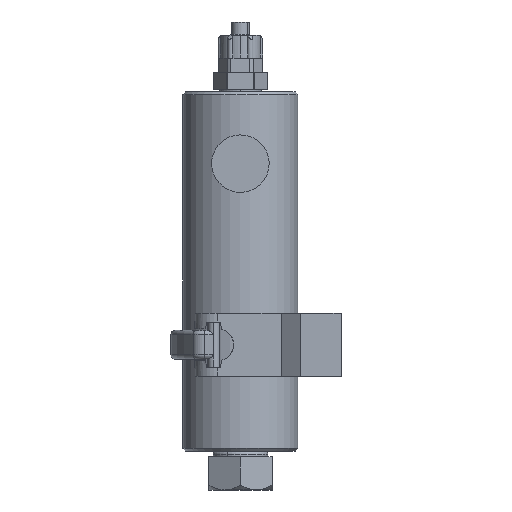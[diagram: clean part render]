
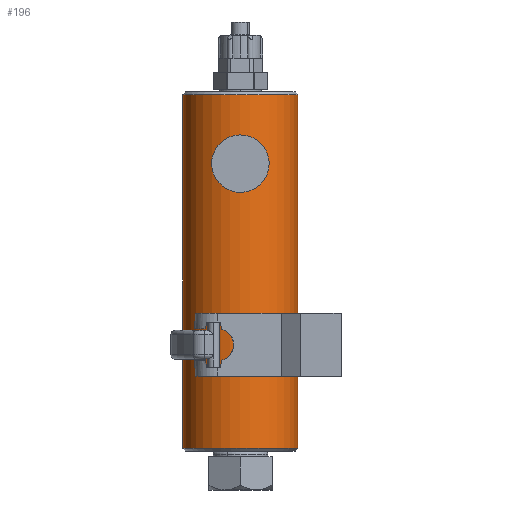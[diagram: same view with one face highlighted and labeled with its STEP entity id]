
A CAD part, front view. The second image highlights one B-rep face of the part: STEP entity #196.
In plain terms, the highlighted cylindrical face has radius 20 mm (diameter 40 mm), a partial arc.
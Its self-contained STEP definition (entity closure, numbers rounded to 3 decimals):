
#51=CARTESIAN_POINT('Axis2P3D Location',(0.,0.,62.5)) ;
#56=CARTESIAN_POINT('Line Origine',(20.,0.,62.5)) ;
#60=CARTESIAN_POINT('Vertex',(20.,0.,1.)) ;
#62=CARTESIAN_POINT('Vertex',(20.,0.,124.)) ;
#69=CARTESIAN_POINT('Vertex',(-20.,0.,1.)) ;
#72=CARTESIAN_POINT('Line Origine',(-20.,0.,62.5)) ;
#76=CARTESIAN_POINT('Vertex',(-20.,0.,124.)) ;
#180=CARTESIAN_POINT('Axis2P3D Location',(0.,0.,1.)) ;
#185=CARTESIAN_POINT('Axis2P3D Location',(0.,0.,124.)) ;
#52=DIRECTION('Axis2P3D Direction',(0.,0.,1.)) ;
#53=DIRECTION('Axis2P3D XDirection',(1.,0.,0.)) ;
#57=DIRECTION('Vector Direction',(0.,0.,1.)) ;
#73=DIRECTION('Vector Direction',(0.,0.,1.)) ;
#181=DIRECTION('Axis2P3D Direction',(0.,0.,1.)) ;
#186=DIRECTION('Axis2P3D Direction',(0.,0.,1.)) ;
#54=AXIS2_PLACEMENT_3D('Cylinder Axis2P3D',#51,#52,#53) ;
#182=AXIS2_PLACEMENT_3D('Circle Axis2P3D',#180,#181,$) ;
#187=AXIS2_PLACEMENT_3D('Circle Axis2P3D',#185,#186,$) ;
#191=ORIENTED_EDGE('',*,*,#78,.F.) ;
#192=ORIENTED_EDGE('',*,*,#184,.T.) ;
#193=ORIENTED_EDGE('',*,*,#64,.T.) ;
#194=ORIENTED_EDGE('',*,*,#189,.F.) ;
#58=VECTOR('Line Direction',#57,1.) ;
#74=VECTOR('Line Direction',#73,1.) ;
#196=ADVANCED_FACE('Versuchsrohr.1',(#195),#55,.T.) ;
#183=CIRCLE('generated circle',#182,20.) ;
#188=CIRCLE('generated circle',#187,20.) ;
#55=CYLINDRICAL_SURFACE('generated cylinder',#54,20.) ;
#64=EDGE_CURVE('',#61,#63,#59,.T.) ;
#78=EDGE_CURVE('',#70,#77,#75,.T.) ;
#184=EDGE_CURVE('',#70,#61,#183,.T.) ;
#189=EDGE_CURVE('',#77,#63,#188,.T.) ;
#190=EDGE_LOOP('',(#191,#192,#193,#194)) ;
#195=FACE_OUTER_BOUND('',#190,.T.) ;
#59=LINE('Line',#56,#58) ;
#75=LINE('Line',#72,#74) ;
#61=VERTEX_POINT('',#60) ;
#63=VERTEX_POINT('',#62) ;
#70=VERTEX_POINT('',#69) ;
#77=VERTEX_POINT('',#76) ;
